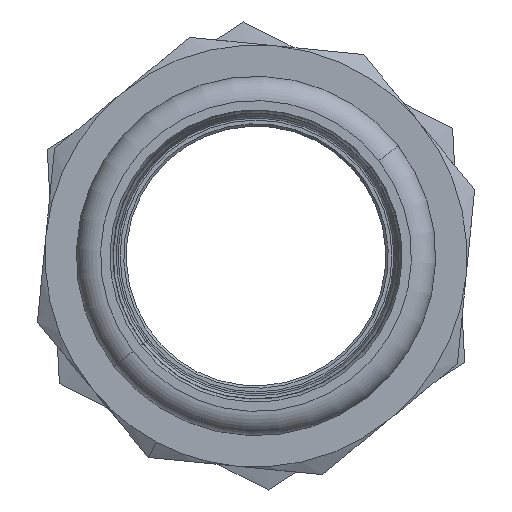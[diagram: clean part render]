
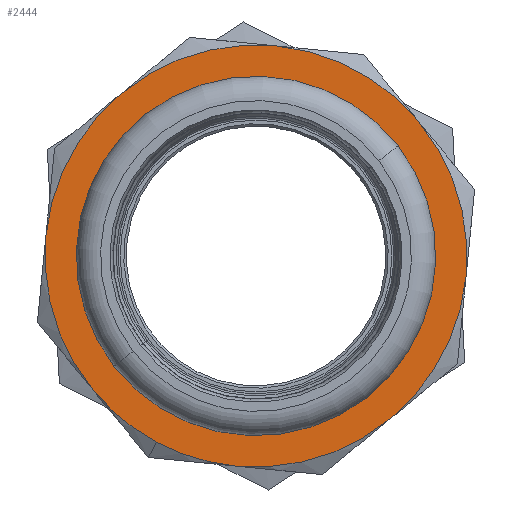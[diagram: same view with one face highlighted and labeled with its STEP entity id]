
A CAD part, left-side view. The second image highlights one B-rep face of the part: STEP entity #2444.
In plain terms, the highlighted planar face has unit normal (-1, 0, 0) as drawn and (0, 1, 0) by its records, which use the part's own axes.
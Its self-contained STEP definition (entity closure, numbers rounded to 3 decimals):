
#8 = DIRECTION ( 'NONE',  ( 0., 0., 1. ) ) ;
#27 = DIRECTION ( 'NONE',  ( 0., 0., 1. ) ) ;
#55 = EDGE_LOOP ( 'NONE', ( #3639, #2452 ) ) ;
#59 = DIRECTION ( 'NONE',  ( 0., 1., 0. ) ) ;
#71 = DIRECTION ( 'NONE',  ( 0., 0., 1. ) ) ;
#117 = EDGE_CURVE ( 'NONE', #1877, #319, #3662, .T. ) ;
#128 = ORIENTED_EDGE ( 'NONE', *, *, #393, .T. ) ;
#189 = CARTESIAN_POINT ( 'NONE',  ( 0., 21., 0. ) ) ;
#319 = VERTEX_POINT ( 'NONE', #3293 ) ;
#330 = CARTESIAN_POINT ( 'NONE',  ( 0., 21., -19.65 ) ) ;
#371 = DIRECTION ( 'NONE',  ( 0., 1., 0. ) ) ;
#393 = EDGE_CURVE ( 'NONE', #2204, #3223, #2938, .T. ) ;
#395 = CIRCLE ( 'NONE', #3197, 26. ) ;
#802 = CIRCLE ( 'NONE', #4118, 19.65 ) ;
#845 = EDGE_CURVE ( 'NONE', #319, #2204, #2202, .T. ) ;
#971 = EDGE_CURVE ( 'NONE', #3386, #1112, #2623, .T. ) ;
#979 = CARTESIAN_POINT ( 'NONE',  ( 24.021, 21., 9.95 ) ) ;
#1010 = CARTESIAN_POINT ( 'NONE',  ( 0., 21., 0. ) ) ;
#1029 = DIRECTION ( 'NONE',  ( 0., 1., 0. ) ) ;
#1048 = CARTESIAN_POINT ( 'NONE',  ( 0., 21., 0. ) ) ;
#1052 = DIRECTION ( 'NONE',  ( 0., 0., 1. ) ) ;
#1068 = DIRECTION ( 'NONE',  ( 0., 0., 1. ) ) ;
#1075 = EDGE_CURVE ( 'NONE', #4006, #1354, #2431, .T. ) ;
#1112 = VERTEX_POINT ( 'NONE', #4183 ) ;
#1149 = ORIENTED_EDGE ( 'NONE', *, *, #1595, .T. ) ;
#1184 = CARTESIAN_POINT ( 'NONE',  ( -9.95, 21., -24.021 ) ) ;
#1188 = FACE_BOUND ( 'NONE', #55, .T. ) ;
#1238 = AXIS2_PLACEMENT_3D ( 'NONE', #2600, #3489, #4152 ) ;
#1255 = CARTESIAN_POINT ( 'NONE',  ( 0., 21., 0. ) ) ;
#1308 = DIRECTION ( 'NONE',  ( 0., 1., 0. ) ) ;
#1336 = AXIS2_PLACEMENT_3D ( 'NONE', #4310, #1308, #4259 ) ;
#1354 = VERTEX_POINT ( 'NONE', #979 ) ;
#1363 = CARTESIAN_POINT ( 'NONE',  ( -9.95, 21., 24.021 ) ) ;
#1370 = AXIS2_PLACEMENT_3D ( 'NONE', #2111, #3060, #71 ) ;
#1379 = DIRECTION ( 'NONE',  ( 0., 1., 0. ) ) ;
#1520 = CARTESIAN_POINT ( 'NONE',  ( 24.021, 21., -9.95 ) ) ;
#1545 = CARTESIAN_POINT ( 'NONE',  ( 0., 21., 19.65 ) ) ;
#1563 = ORIENTED_EDGE ( 'NONE', *, *, #1612, .T. ) ;
#1595 = EDGE_CURVE ( 'NONE', #1112, #1877, #395, .T. ) ;
#1612 = EDGE_CURVE ( 'NONE', #2325, #4006, #2979, .T. ) ;
#1637 = AXIS2_PLACEMENT_3D ( 'NONE', #1048, #1029, #27 ) ;
#1707 = CARTESIAN_POINT ( 'NONE',  ( 0., 21., 0. ) ) ;
#1721 = CARTESIAN_POINT ( 'NONE',  ( 0., 21., 0. ) ) ;
#1812 = CARTESIAN_POINT ( 'NONE',  ( 9.95, 21., 24.021 ) ) ;
#1862 = AXIS2_PLACEMENT_3D ( 'NONE', #1010, #2370, #8 ) ;
#1877 = VERTEX_POINT ( 'NONE', #1184 ) ;
#1917 = FACE_OUTER_BOUND ( 'NONE', #4031, .T. ) ;
#1996 = AXIS2_PLACEMENT_3D ( 'NONE', #1707, #1379, #4045 ) ;
#2111 = CARTESIAN_POINT ( 'NONE',  ( 0., 21., 0. ) ) ;
#2202 = CIRCLE ( 'NONE', #1637, 26. ) ;
#2204 = VERTEX_POINT ( 'NONE', #3841 ) ;
#2306 = ORIENTED_EDGE ( 'NONE', *, *, #2762, .T. ) ;
#2325 = VERTEX_POINT ( 'NONE', #4014 ) ;
#2349 = AXIS2_PLACEMENT_3D ( 'NONE', #4108, #3179, #4144 ) ;
#2370 = DIRECTION ( 'NONE',  ( 0., 1., 0. ) ) ;
#2374 = VERTEX_POINT ( 'NONE', #330 ) ;
#2431 = CIRCLE ( 'NONE', #4138, 26. ) ;
#2444 = ADVANCED_FACE ( 'NONE', ( #1188, #1917 ), #4095, .T. ) ;
#2452 = ORIENTED_EDGE ( 'NONE', *, *, #3299, .F. ) ;
#2600 = CARTESIAN_POINT ( 'NONE',  ( 0., 21., 0. ) ) ;
#2608 = CIRCLE ( 'NONE', #1336, 26. ) ;
#2623 = CIRCLE ( 'NONE', #2349, 26. ) ;
#2626 = DIRECTION ( 'NONE',  ( 0., 1., 0. ) ) ;
#2667 = DIRECTION ( 'NONE',  ( 0., 0., 1. ) ) ;
#2700 = CARTESIAN_POINT ( 'NONE',  ( 0., 21., 0. ) ) ;
#2762 = EDGE_CURVE ( 'NONE', #3223, #2325, #2608, .T. ) ;
#2938 = CIRCLE ( 'NONE', #1996, 26. ) ;
#2971 = EDGE_CURVE ( 'NONE', #1354, #3386, #4317, .T. ) ;
#2979 = CIRCLE ( 'NONE', #3253, 26. ) ;
#3060 = DIRECTION ( 'NONE',  ( 0., 1., 0. ) ) ;
#3091 = DIRECTION ( 'NONE',  ( 0., 1., 0. ) ) ;
#3179 = DIRECTION ( 'NONE',  ( 0., 1., 0. ) ) ;
#3197 = AXIS2_PLACEMENT_3D ( 'NONE', #2700, #3091, #1068 ) ;
#3208 = ORIENTED_EDGE ( 'NONE', *, *, #845, .T. ) ;
#3223 = VERTEX_POINT ( 'NONE', #1363 ) ;
#3253 = AXIS2_PLACEMENT_3D ( 'NONE', #1721, #371, #1052 ) ;
#3290 = AXIS2_PLACEMENT_3D ( 'NONE', #3357, #59, #3432 ) ;
#3293 = CARTESIAN_POINT ( 'NONE',  ( -24.021, 21., -9.95 ) ) ;
#3299 = EDGE_CURVE ( 'NONE', #2374, #4155, #802, .T. ) ;
#3357 = CARTESIAN_POINT ( 'NONE',  ( 0., 21., 0. ) ) ;
#3386 = VERTEX_POINT ( 'NONE', #1520 ) ;
#3432 = DIRECTION ( 'NONE',  ( 0., 0., 1. ) ) ;
#3448 = CIRCLE ( 'NONE', #1862, 19.65 ) ;
#3489 = DIRECTION ( 'NONE',  ( 0., 1., 0. ) ) ;
#3526 = ORIENTED_EDGE ( 'NONE', *, *, #2971, .T. ) ;
#3544 = DIRECTION ( 'NONE',  ( 0., 0., 1. ) ) ;
#3639 = ORIENTED_EDGE ( 'NONE', *, *, #3771, .F. ) ;
#3662 = CIRCLE ( 'NONE', #1238, 26. ) ;
#3771 = EDGE_CURVE ( 'NONE', #4155, #2374, #3448, .T. ) ;
#3841 = CARTESIAN_POINT ( 'NONE',  ( -24.021, 21., 9.95 ) ) ;
#3872 = DIRECTION ( 'NONE',  ( 0., 1., 0. ) ) ;
#3936 = ORIENTED_EDGE ( 'NONE', *, *, #117, .T. ) ;
#4006 = VERTEX_POINT ( 'NONE', #1812 ) ;
#4014 = CARTESIAN_POINT ( 'NONE',  ( 0., 21., 26. ) ) ;
#4031 = EDGE_LOOP ( 'NONE', ( #2306, #1563, #4043, #3526, #4330, #1149, #3936, #3208, #128 ) ) ;
#4043 = ORIENTED_EDGE ( 'NONE', *, *, #1075, .T. ) ;
#4045 = DIRECTION ( 'NONE',  ( 0., 0., 1. ) ) ;
#4095 = PLANE ( 'NONE',  #1370 ) ;
#4108 = CARTESIAN_POINT ( 'NONE',  ( 0., 21., 0. ) ) ;
#4118 = AXIS2_PLACEMENT_3D ( 'NONE', #1255, #2626, #2667 ) ;
#4138 = AXIS2_PLACEMENT_3D ( 'NONE', #189, #3872, #3544 ) ;
#4144 = DIRECTION ( 'NONE',  ( 0., 0., 1. ) ) ;
#4152 = DIRECTION ( 'NONE',  ( 0., 0., 1. ) ) ;
#4155 = VERTEX_POINT ( 'NONE', #1545 ) ;
#4183 = CARTESIAN_POINT ( 'NONE',  ( 9.95, 21., -24.021 ) ) ;
#4259 = DIRECTION ( 'NONE',  ( 0., 0., 1. ) ) ;
#4310 = CARTESIAN_POINT ( 'NONE',  ( 0., 21., 0. ) ) ;
#4317 = CIRCLE ( 'NONE', #3290, 26. ) ;
#4330 = ORIENTED_EDGE ( 'NONE', *, *, #971, .T. ) ;
